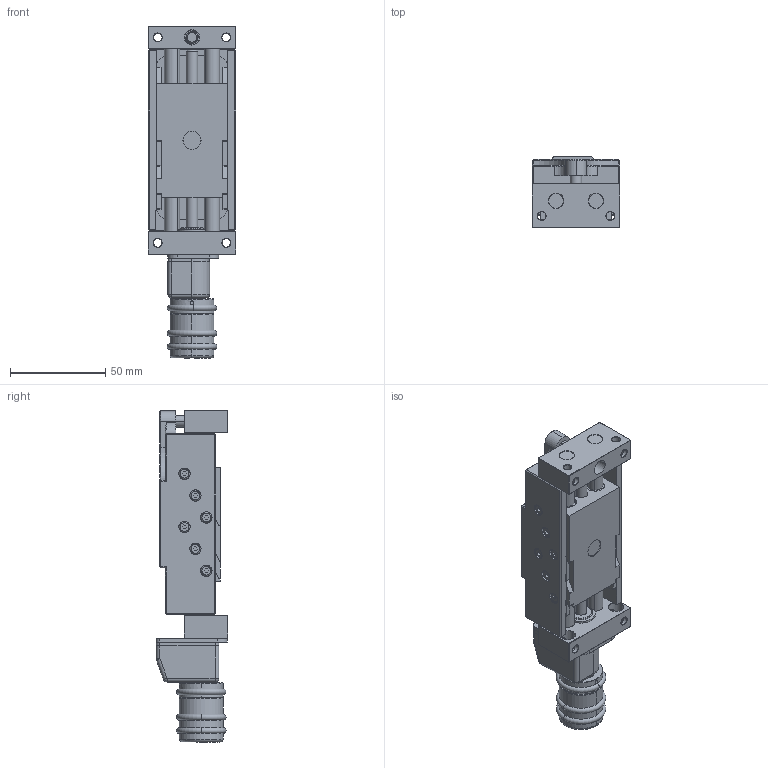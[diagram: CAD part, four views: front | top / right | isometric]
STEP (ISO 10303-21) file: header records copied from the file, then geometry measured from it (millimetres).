
FILE_DESCRIPTION (( 'STEP AP203' ), '1' );
FILE_NAME ('HT08-PA-Hubtisch.STEP', '2016-01-15T16:35:58', ( '' ), ( '' ), 'SwSTEP 2.0', 'SolidWorks 2014', '' );
FILE_SCHEMA (( 'CONFIG_CONTROL_DESIGN' ));
Length unit declared in the file: millimetre
Products named in the file (5): HT08-000-01-Festteil-PA(E); HT08-000-02-Schlitten-komplett; HT08-000-03-Hubplatte-komplett; PA0812-PTHT-000-Positionsanzeiger-komplett_n_Standard; HT08-PA-Hubtisch
Assembly tree (4 placements, depth 2):
  HT08-PA-Hubtisch
    HT08-000-01-Festteil-PA(E)
    HT08-000-02-Schlitten-komplett
    HT08-000-03-Hubplatte-komplett
    PA0812-PTHT-000-Positionsanzeiger-komplett_n_Standard
Bounding box: 46 x 37.7 x 174.53 mm (x, y, z)
Volume: 141565.2 mm3; surface area: 65212.4 mm2
Topology: 6 solids, 18 shells, 1089 faces, 2560 edges, 1617 vertices
Faces by surface type: plane 454, cylinder 416, cone 167, torus 39, sphere 7, bspline 6
Entity records: 33053 total; most frequent: CARTESIAN_POINT 6649, DIRECTION 5774, ORIENTED_EDGE 5070, EDGE_CURVE 2535, AXIS2_PLACEMENT_3D 2220, VERTEX_POINT 1617, VECTOR 1334, LINE 1334
